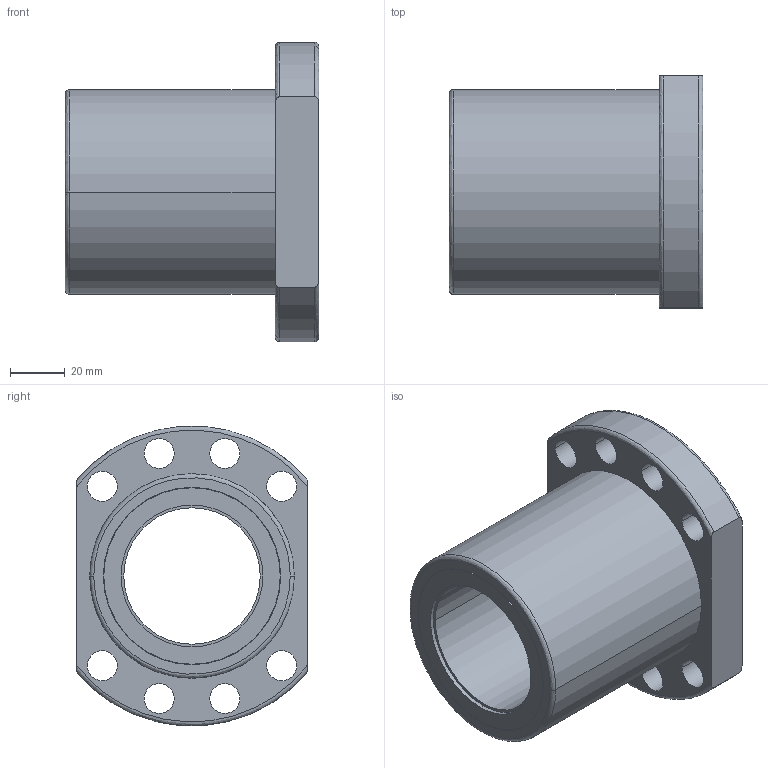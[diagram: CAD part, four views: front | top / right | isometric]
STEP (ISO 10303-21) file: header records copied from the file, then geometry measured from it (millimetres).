
FILE_DESCRIPTION (( 'STEP AP214' ), '1' );
FILE_NAME ('2.3023 Kuularuuvimutteri SFU5010-4.STEP', '2024-05-03T07:32:22', ( '' ), ( '' ), 'SwSTEP 2.0', 'SolidWorks 2024', '' );
FILE_SCHEMA (( 'AUTOMOTIVE_DESIGN' ));
Length unit declared in the file: millimetre
Products named in the file (1): 2.3023 Kuularuuvimutteri SFU5010-4
Bounding box: 93 x 85 x 109.65 mm (x, y, z)
Volume: 274083.4 mm3; surface area: 59209.7 mm2
Topology: 2 solids, 2 shells, 54 faces, 130 edges, 86 vertices
Faces by surface type: cylinder 36, plane 12, bspline 6
Entity records: 2272 total; most frequent: CARTESIAN_POINT 849, DIRECTION 288, ORIENTED_EDGE 260, EDGE_CURVE 130, AXIS2_PLACEMENT_3D 123, VERTEX_POINT 86, EDGE_LOOP 80, CIRCLE 74
